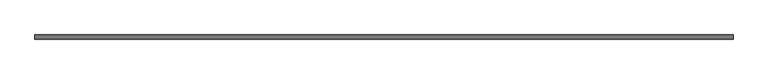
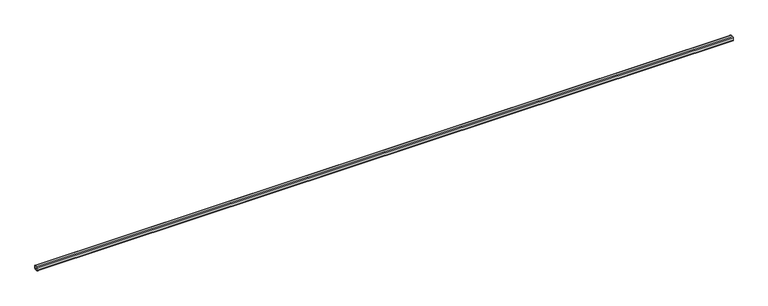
"""IFC4 building model written with IfcOpenShell, lengths in millimetres: beam geometry, Гнутый квадратный профиль (ТУ BE25577 - 83) Балки : гнутый квадрат. проф. 100x5."""

import ifcopenshell
import ifcopenshell.guid

model = None  # the IFC model being written
_history = None  # IfcOwnerHistory: only IFC2X3 demands one
_inside = {}  # id of a spatial element -> (the spatial element, [elements in it])
_under = {}  # id of a project, library or spatial element -> (it, [spatial elements below it])
_declared = {}  # id of a project -> (the project, [libraries it declares])
_typed = {}  # id of a type object -> (the type object, [elements of that type])
_made_of = {}  # id of a material, layer set ... -> (it, [elements and type objects made of it])


def new_model(schema):
    """Start an empty IFC model of exactly this schema.

    Asked for "IFC4X3", IfcOpenShell would pick the latest addendum, in which some entities
    have other attributes; the version numbers below select the first issue.
    IFC2X3 requires an IfcOwnerHistory on every rooted entity: one is made here for all.
    """
    global model, _history
    if schema == "IFC4X3":
        model = ifcopenshell.file(schema_version=(4, 3, 0, 0))
    else:
        model = ifcopenshell.file(schema=schema)
    _inside.clear()
    _under.clear()
    _declared.clear()
    _typed.clear()
    _made_of.clear()
    _history = None
    if model.schema == "IFC2X3":
        org = make("IfcOrganization", Name="unknown")
        user = make(
            "IfcPersonAndOrganization",
            ThePerson=make("IfcPerson", FamilyName="unknown"),
            TheOrganization=org,
        )
        app = make(
            "IfcApplication",
            ApplicationDeveloper=org,
            Version="unknown",
            ApplicationFullName="unknown",
            ApplicationIdentifier="unknown",
        )
        _history = make(
            "IfcOwnerHistory",
            OwningUser=user,
            OwningApplication=app,
            ChangeAction="ADDED",
            CreationDate=0,
        )
    return model


def make(cls, **values):
    """One entity of the class cls with the attributes given. An attribute that is None is left unset."""
    return model.create_entity(
        cls, **{name: value for name, value in values.items() if value is not None}
    )


def rooted(cls, **values):
    """An entity with a GlobalId (a new one), such as an element, a storey or a relation."""
    return make(cls, GlobalId=ifcopenshell.guid.new(), OwnerHistory=_history, **values)


def si_unit(unit_type, name, prefix=None):
    """IfcSIUnit, for example si_unit("LENGTHUNIT", "METRE", prefix="MILLI")."""
    return make("IfcSIUnit", UnitType=unit_type, Prefix=prefix, Name=name)


def assignment(units):
    """IfcUnitAssignment: the units of a project."""
    return None if units is None else make("IfcUnitAssignment", Units=units)


def point(xyz):
    """IfcCartesianPoint."""
    return None if xyz is None else make("IfcCartesianPoint", Coordinates=xyz)


def direction(xyz):
    """IfcDirection."""
    return None if xyz is None else make("IfcDirection", DirectionRatios=xyz)


def frame(location, z_axis=None, x_axis=None):
    """IfcAxis2Placement3D, a coordinate frame: its origin and axes. An axis left out is left unset."""
    return make(
        "IfcAxis2Placement3D",
        Location=point(location),
        Axis=direction(z_axis),
        RefDirection=direction(x_axis),
    )


def frame_2d(location, x_axis=None):
    """IfcAxis2Placement2D, a coordinate frame in the plane: its origin and x axis."""
    return make(
        "IfcAxis2Placement2D", Location=point(location), RefDirection=direction(x_axis)
    )


def origin():
    """The frame at (0, 0, 0) with its axes left unset."""
    return frame((0.0, 0.0, 0.0))


def place(relative_to, where):
    """IfcLocalPlacement: puts the frame where relative to a parent placement (None: the world)."""
    return make(
        "IfcLocalPlacement", PlacementRelTo=relative_to, RelativePlacement=where
    )


def context(
    kind, dimensions, precision=None, world=None, true_north=None, identifier=None
):
    """IfcGeometricRepresentationContext, for example the 3D "Model" context."""
    return make(
        "IfcGeometricRepresentationContext",
        ContextIdentifier=identifier,
        ContextType=kind,
        CoordinateSpaceDimension=dimensions,
        Precision=precision,
        WorldCoordinateSystem=world,
        TrueNorth=true_north,
    )


def project(units=None, contexts=None):
    """IfcProject with its units and contexts."""
    return rooted(
        "IfcProject",
        Name="project",
        RepresentationContexts=contexts,
        UnitsInContext=assignment(units),
    )


def spatial(cls, under=None, at=None, **own):
    """A site, building, storey or space (cls), placed at a placement, below another one or the project."""
    s = rooted(cls, ObjectPlacement=at, **own)
    if under is not None:
        _under.setdefault(under.id(), (under, []))[1].append(s)
    return s


def polyline(points):
    """IfcPolyline through the points."""
    return make("IfcPolyline", Points=[point(p) for p in points])


def circle_curve(where, radius):
    """IfcCircle in the frame where."""
    return make("IfcCircle", Position=where, Radius=radius)


def trimmed(basis, trim1, trim2, sense, master):
    """IfcTrimmedCurve: the piece of a basis curve between two trims."""
    return make(
        "IfcTrimmedCurve",
        BasisCurve=basis,
        Trim1=trim1,
        Trim2=trim2,
        SenseAgreement=sense,
        MasterRepresentation=master,
    )


def segment(curve, same_sense, transition):
    """IfcCompositeCurveSegment."""
    return make(
        "IfcCompositeCurveSegment",
        Transition=transition,
        SameSense=same_sense,
        ParentCurve=curve,
    )


def composite_curve(segments, self_intersect=None):
    """IfcCompositeCurve: segments joined end to end."""
    return make("IfcCompositeCurve", Segments=segments, SelfIntersect=self_intersect)


def outline(outer, holes=None, kind="AREA"):
    """IfcArbitraryClosedProfileDef: a profile drawn as a closed curve; with holes, ...WithVoids."""
    if holes is None:
        return make("IfcArbitraryClosedProfileDef", ProfileType=kind, OuterCurve=outer)
    return make(
        "IfcArbitraryProfileDefWithVoids",
        ProfileType=kind,
        OuterCurve=outer,
        InnerCurves=holes,
    )


def extrude(swept, where, along, depth):
    """IfcExtrudedAreaSolid: the profile swept, set in the frame where, extruded along a direction by depth."""
    return make(
        "IfcExtrudedAreaSolid",
        SweptArea=swept,
        Position=where,
        ExtrudedDirection=direction(along),
        Depth=depth,
    )


def shape(context_of_items, identifier, shape_type, items):
    """IfcShapeRepresentation: the items that make up one representation, for example the "Body"."""
    return make(
        "IfcShapeRepresentation",
        ContextOfItems=context_of_items,
        RepresentationIdentifier=identifier,
        RepresentationType=shape_type,
        Items=items,
    )


def source(mapping_origin, context_of_items, identifier, shape_type, items):
    """IfcRepresentationMap: a shape defined once, which mapped items show again and again."""
    return make(
        "IfcRepresentationMap",
        MappingOrigin=mapping_origin,
        MappedRepresentation=shape(context_of_items, identifier, shape_type, items),
    )


def transform(
    local_origin,
    x_axis=None,
    y_axis=None,
    z_axis=None,
    scale=None,
    scale2=None,
    scale3=None,
    uniform=True,
):
    """IfcCartesianTransformationOperator3D, or its non-uniform kind. x_axis, y_axis, z_axis: its Axis1, 2, 3."""
    if uniform:
        return make(
            "IfcCartesianTransformationOperator3D",
            Axis1=direction(x_axis),
            Axis2=direction(y_axis),
            LocalOrigin=point(local_origin),
            Scale=scale,
            Axis3=direction(z_axis),
        )
    return make(
        "IfcCartesianTransformationOperator3DnonUniform",
        Axis1=direction(x_axis),
        Axis2=direction(y_axis),
        LocalOrigin=point(local_origin),
        Scale=scale,
        Axis3=direction(z_axis),
        Scale2=scale2,
        Scale3=scale3,
    )


def mapped(mapping_source, mapping_target):
    """IfcMappedItem: shows the shape of a source again, moved by a transform."""
    return make(
        "IfcMappedItem", MappingSource=mapping_source, MappingTarget=mapping_target
    )


def made_of(thing, what):
    """Note that an element or type object is made of a material, layer set ...; save() writes the relation."""
    if what is not None:
        _made_of.setdefault(what.id(), (what, []))[1].append(thing)
    return thing


def element(
    cls,
    number,
    at=None,
    inside=None,
    cuts=None,
    type_object=None,
    material=None,
    context=None,
    identifier="Body",
    shape_type=None,
    held_by="IfcProductDefinitionShape",
    body=None,
    shapes=None,
    **own,
):
    """One element of the class cls, such as IfcWall. Its Tag is "e" and its number.

    at: its placement. inside: the storey or other place that contains it. cuts: it is an
    opening in that element (IfcRelVoidsElement). A single representation is given by context,
    identifier, shape_type and body (its items); several are given by shapes. held_by: the class
    of the entity that holds the representations. save() writes the other relations.
    """
    e = rooted(cls, Tag="e%d" % number, ObjectPlacement=at, **own)
    if body is not None:
        shapes = [shape(context, identifier, shape_type, body)]
    if shapes is not None:
        e.Representation = make(held_by, Representations=shapes)
    if inside is not None:
        _inside.setdefault(inside.id(), (inside, []))[1].append(e)
    if cuts is not None:
        rooted(
            "IfcRelVoidsElement", RelatingBuildingElement=cuts, RelatedOpeningElement=e
        )
    if type_object is not None:
        _typed.setdefault(type_object.id(), (type_object, []))[1].append(e)
    return made_of(e, material)


def aggregate(whole, parts):
    """IfcRelAggregates: a whole, such as a stair, and the parts it consists of."""
    return rooted("IfcRelAggregates", RelatingObject=whole, RelatedObjects=parts)


def save(model, path):
    """Write the relations noted so far, then the file.

    IfcRelAggregates (storeys below a building ...), IfcRelContainedInSpatialStructure (elements
    in a storey), IfcRelDefinesByType, IfcRelAssociatesMaterial and IfcRelDeclares: one each for
    every whole, place, type object, material and project.
    """
    for whole, parts in _under.values():
        aggregate(whole, parts)
    for where, things in _inside.values():
        rooted(
            "IfcRelContainedInSpatialStructure",
            RelatedElements=things,
            RelatingStructure=where,
        )
    for kind, things in _typed.values():
        rooted("IfcRelDefinesByType", RelatedObjects=things, RelatingType=kind)
    for what, things in _made_of.values():
        rooted("IfcRelAssociatesMaterial", RelatedObjects=things, RelatingMaterial=what)
    for by, libraries in _declared.values():
        rooted("IfcRelDeclares", RelatingContext=by, RelatedDefinitions=libraries)
    model.write(path)


def beam_26c6b2e9(model_context):
    return source(origin(), model_context, "Body", "SweptSolid", [
        extrude(outline(composite_curve([segment(polyline([(-33.0, 50.0), (33.0, 50.0)]), True, "CONTINUOUS"), segment(trimmed(circle_curve(frame_2d((33.0, 33.0)), 17.0), [point((33.0, 50.0))], [point((50.0, 33.0))], False, "CARTESIAN"), True, "CONTINUOUS"), segment(polyline([(50.0, 33.0), (50.0, -33.0)]), True, "CONTINUOUS"), segment(trimmed(circle_curve(frame_2d((33.0, -33.0)), 17.0), [point((50.0, -33.0))], [point((33.0, -50.0))], False, "CARTESIAN"), True, "CONTINUOUS"), segment(polyline([(33.0, -50.0), (-33.0, -50.0)]), True, "CONTINUOUS"), segment(trimmed(circle_curve(frame_2d((-33.0, -33.0)), 17.0), [point((-33.0, -50.0))], [point((-50.0, -33.0))], False, "CARTESIAN"), True, "CONTINUOUS"), segment(polyline([(-50.0, -33.0), (-50.0, 33.0)]), True, "CONTINUOUS"), segment(trimmed(circle_curve(frame_2d((-33.0, 33.0)), 17.0), [point((-50.0, 33.0))], [point((-33.0, 50.0))], False, "CARTESIAN"), True, "CONTINUOUS")], self_intersect=False), holes=[composite_curve([segment(trimmed(circle_curve(frame_2d((-33.0, 33.0)), 12.0), [point((-33.0, 45.0))], [point((-45.0, 33.0))], True, "CARTESIAN"), True, "CONTINUOUS"), segment(polyline([(-45.0, 33.0), (-45.0, -33.0)]), True, "CONTINUOUS"), segment(trimmed(circle_curve(frame_2d((-33.0, -33.0)), 12.0), [point((-45.0, -33.0))], [point((-33.0, -45.0))], True, "CARTESIAN"), True, "CONTINUOUS"), segment(polyline([(-33.0, -45.0), (33.0, -45.0)]), True, "CONTINUOUS"), segment(trimmed(circle_curve(frame_2d((33.0, -33.0)), 12.0), [point((33.0, -45.0))], [point((45.0, -33.0))], True, "CARTESIAN"), True, "CONTINUOUS"), segment(polyline([(45.0, -33.0), (45.0, 33.0)]), True, "CONTINUOUS"), segment(trimmed(circle_curve(frame_2d((33.0, 33.0)), 12.0), [point((45.0, 33.0))], [point((33.0, 45.0))], True, "CARTESIAN"), True, "CONTINUOUS"), segment(polyline([(33.0, 45.0), (-33.0, 45.0)]), True, "CONTINUOUS")], self_intersect=False)]), frame((-8460.0, 0.0, 0.0), z_axis=(1.0, 0.0, 0.0), x_axis=(0.0, 1.0, 0.0)), (0.0, 0.0, 1.0), 16920.0),
    ])


if __name__ == "__main__":
    model = new_model("IFC4")
    model_context = context("Model", 3, world=origin())
    ifc_project = project(units=[si_unit("LENGTHUNIT", "METRE", prefix="MILLI")], contexts=[model_context])
    site = spatial("IfcSite", under=ifc_project)
    building = spatial("IfcBuilding", under=site)
    placement = place(None, origin())
    beam_shape = beam_26c6b2e9(model_context)
    element("IfcBeam", 1, ObjectType="Гнутый квадратный профиль (ТУ BE25577 - 83) Балки : гнутый квадрат. проф. 100x5", at=placement, inside=building, context=model_context, shape_type="MappedRepresentation", body=[
        mapped(beam_shape, transform((0.0, 0.0, 0.0), x_axis=(1.0, 0.0, 0.0), y_axis=(0.0, 1.0, 0.0), z_axis=(0.0, 0.0, 1.0))),
    ])
    save(model, "model.ifc")
